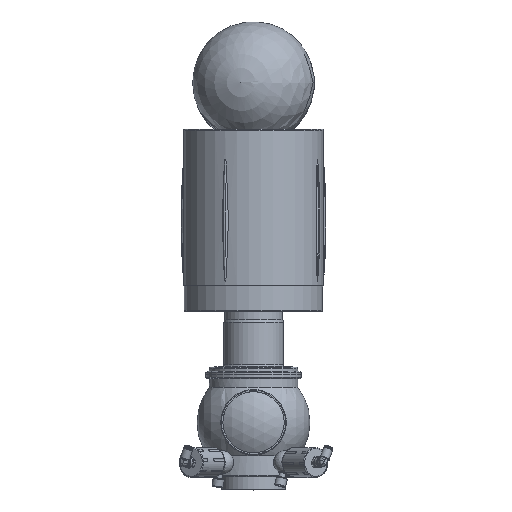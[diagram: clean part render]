
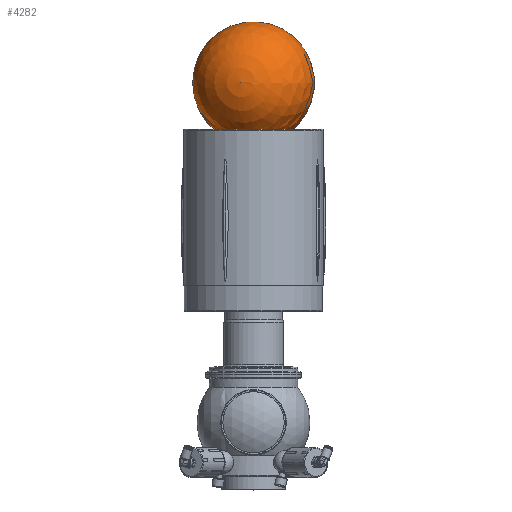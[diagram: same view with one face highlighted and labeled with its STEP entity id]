
A CAD part, top view. The second image highlights one B-rep face of the part: STEP entity #4282.
In plain terms, the highlighted spherical face has radius 72.5 mm.
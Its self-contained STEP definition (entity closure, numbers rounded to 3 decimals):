
#169=FACE_BOUND('',#1325,.T.);
#1077=FACE_OUTER_BOUND('',#1324,.T.);
#1324=EDGE_LOOP('',(#3293,#3294));
#1325=EDGE_LOOP('',(#3295));
#1622=CIRCLE('',#4747,72.5);
#1623=CIRCLE('',#4748,46.648);
#1954=VERTEX_POINT('',#7063);
#1955=VERTEX_POINT('',#7064);
#1956=VERTEX_POINT('',#7066);
#2466=EDGE_CURVE('',#1954,#1955,#1622,.T.);
#2467=EDGE_CURVE('',#1956,#1956,#1623,.T.);
#3293=ORIENTED_EDGE('',*,*,#2466,.T.);
#3294=ORIENTED_EDGE('',*,*,#2466,.F.);
#3295=ORIENTED_EDGE('',*,*,#2467,.F.);
#4212=SPHERICAL_SURFACE('',#4746,72.5);
#4282=ADVANCED_FACE('',(#1077,#169),#4212,.T.);
#4746=AXIS2_PLACEMENT_3D('',#7062,#5522,#5523);
#4747=AXIS2_PLACEMENT_3D('',#7065,#5524,#5525);
#4748=AXIS2_PLACEMENT_3D('',#7067,#5526,#5527);
#5522=DIRECTION('center_axis',(0.,0.,1.));
#5523=DIRECTION('ref_axis',(1.,0.,0.));
#5524=DIRECTION('center_axis',(0.,-1.,0.));
#5525=DIRECTION('ref_axis',(-1.,0.,0.));
#5526=DIRECTION('center_axis',(0.,-1.,0.));
#5527=DIRECTION('ref_axis',(1.,0.,0.));
#7062=CARTESIAN_POINT('Origin',(150.,266.5,0.));
#7063=CARTESIAN_POINT('',(150.,266.5,72.5));
#7064=CARTESIAN_POINT('',(150.,266.5,-72.5));
#7065=CARTESIAN_POINT('Origin',(150.,266.5,0.));
#7066=CARTESIAN_POINT('',(196.648,211.,0.));
#7067=CARTESIAN_POINT('Origin',(150.,211.,0.));
